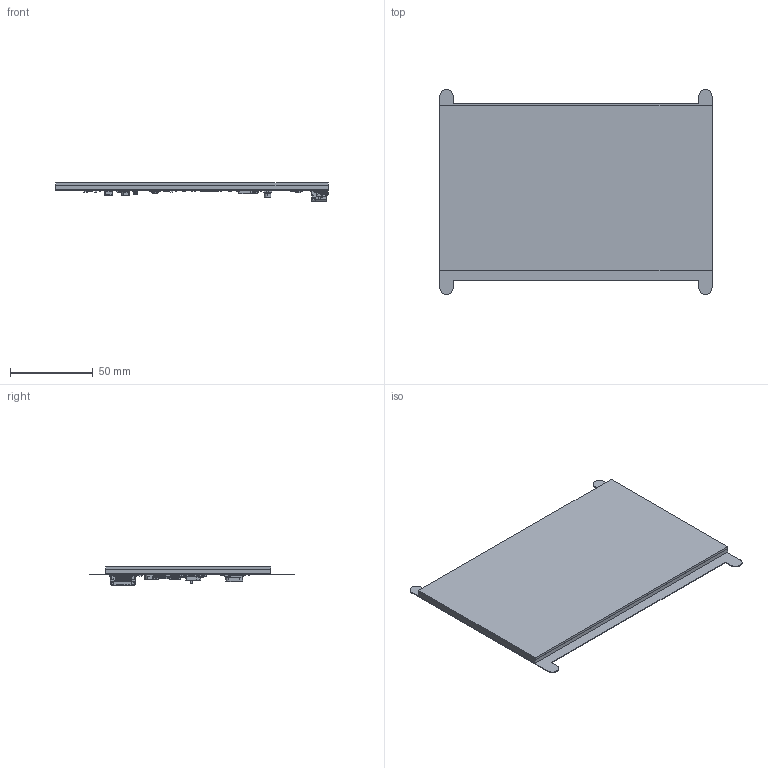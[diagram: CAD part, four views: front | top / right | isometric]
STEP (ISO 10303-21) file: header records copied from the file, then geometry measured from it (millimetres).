
FILE_DESCRIPTION(('Open CASCADE Model'),'2;1');
FILE_NAME('Open CASCADE Shape Model','2022-06-20T13:47:42',('Author'),( 'Open CASCADE'),'Open CASCADE STEP processor 6.2','Open CASCADE 6.2' ,'Unknown');
FILE_SCHEMA(('AUTOMOTIVE_DESIGN { 1 0 10303 214 1 1 1 1 }'));
Length unit declared in the file: millimetre
Products named in the file (172): PCB; Board; C1; 407938176; C2; C3; 407938288; C4; 408055968; C5; 407940080; C6; 407939968; C7; 407937616; C8; C9; 407937728; C10; C11; C12; C13; C14; 407940192; C15; C16; 407937504; C26; 407937952; C27; C28; C29; 407938064; C30; 407938400; C31; C32; C33; C34; C35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
Assembly tree (238 placements, depth 4):
  PCB
    Board
    C1
      407938176
    C2
      407938176
    C3
      407938288
    C4
      408055968
    C5
      407940080
    C6
      407939968
    C7
      407937616
    C8
      407940080
    C9
      407937728
    C10
      407937616
    C11
      408055968
    C12
      407940080
    C13
      407940080
    C14
      407940192
    C15
      407940080
    C16
      407937504
    C26
      407937952
    C27
      407938176
    C28
      407938288
    C29
      407938064
    C30
      407938400
    C31
      407938176
    C32
      407938400
    C33
      407938176
    C34
      407938176
    C35
      407937952
    C36
      407938400
    C37
      407938288
    C38
      407938176
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Bounding box: 164.97 x 124.29 x 11.19 mm (x, y, z)
Volume: 146601.8 mm3; surface area: 165241.4 mm2
Topology: 202 solids, 202 shells, 12766 faces, 33601 edges, 21314 vertices
Faces by surface type: plane 7072, bspline 3693, cylinder 1651, sphere 320, cone 20, torus 10
Entity records: 520919 total; most frequent: CARTESIAN_POINT 195715, DIRECTION 48946, LINE 34274, VECTOR 34274, ORIENTED_EDGE 31818, PCURVE 31818, DEFINITIONAL_REPRESENTATION 31818, EDGE_CURVE 15909
